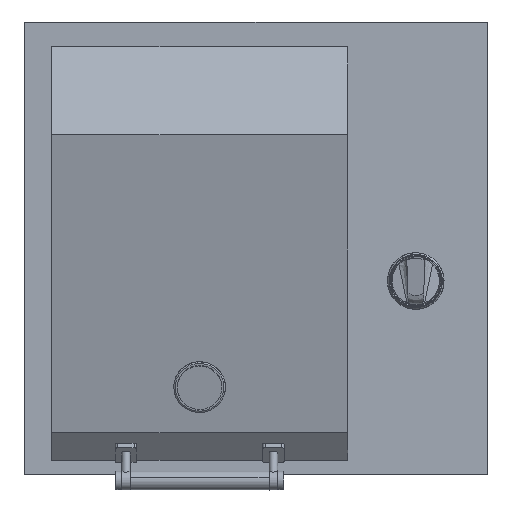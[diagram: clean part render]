
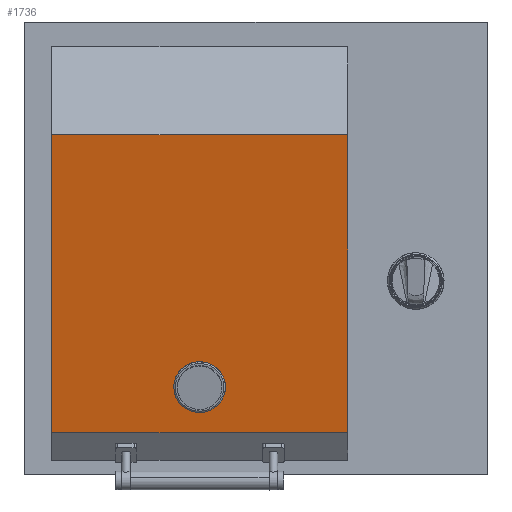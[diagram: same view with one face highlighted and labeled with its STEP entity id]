
A CAD part, top view. The second image highlights one B-rep face of the part: STEP entity #1736.
In plain terms, the highlighted planar face has unit normal (0, -0.204, 0.979).
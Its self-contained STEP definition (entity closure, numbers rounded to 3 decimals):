
#97=LINE('',#3890,#184);
#99=LINE('',#3894,#186);
#107=LINE('',#3910,#194);
#108=LINE('',#3912,#195);
#184=VECTOR('',#2493,1000.);
#186=VECTOR('',#2497,1000.);
#194=VECTOR('',#2509,1000.);
#195=VECTOR('',#2512,1000.);
#257=PLANE('',#2186);
#640=ORIENTED_EDGE('',*,*,#993,.F.);
#641=ORIENTED_EDGE('',*,*,#1003,.F.);
#642=ORIENTED_EDGE('',*,*,#1004,.T.);
#643=ORIENTED_EDGE('',*,*,#995,.T.);
#993=EDGE_CURVE('',#1204,#1205,#97,.T.);
#995=EDGE_CURVE('',#1206,#1205,#99,.T.);
#1003=EDGE_CURVE('',#1211,#1204,#107,.T.);
#1004=EDGE_CURVE('',#1211,#1206,#108,.T.);
#1204=VERTEX_POINT('',#3889);
#1205=VERTEX_POINT('',#3891);
#1206=VERTEX_POINT('',#3895);
#1211=VERTEX_POINT('',#3909);
#1449=EDGE_LOOP('',(#640,#641,#642,#643));
#1583=FACE_BOUND('',#1449,.T.);
#1736=ADVANCED_FACE('',(#1583),#257,.F.);
#2186=AXIS2_PLACEMENT_3D('',#3911,#2510,#2511);
#2493=DIRECTION('',(1.,0.,0.));
#2497=DIRECTION('',(0.,0.979,0.204));
#2509=DIRECTION('',(0.,0.979,0.204));
#2510=DIRECTION('',(0.,0.204,-0.979));
#2511=DIRECTION('',(0.,0.979,0.204));
#2512=DIRECTION('',(1.,0.,0.));
#3889=CARTESIAN_POINT('',(-484.8,372.145,281.592));
#3890=CARTESIAN_POINT('',(-484.8,372.145,281.592));
#3891=CARTESIAN_POINT('',(-138.4,372.145,281.592));
#3894=CARTESIAN_POINT('',(-138.4,23.502,209.048));
#3895=CARTESIAN_POINT('',(-138.4,23.502,209.048));
#3909=CARTESIAN_POINT('',(-484.8,23.502,209.048));
#3910=CARTESIAN_POINT('',(-484.8,23.502,209.048));
#3911=CARTESIAN_POINT('',(-484.8,23.502,209.048));
#3912=CARTESIAN_POINT('',(-484.8,23.502,209.048));
